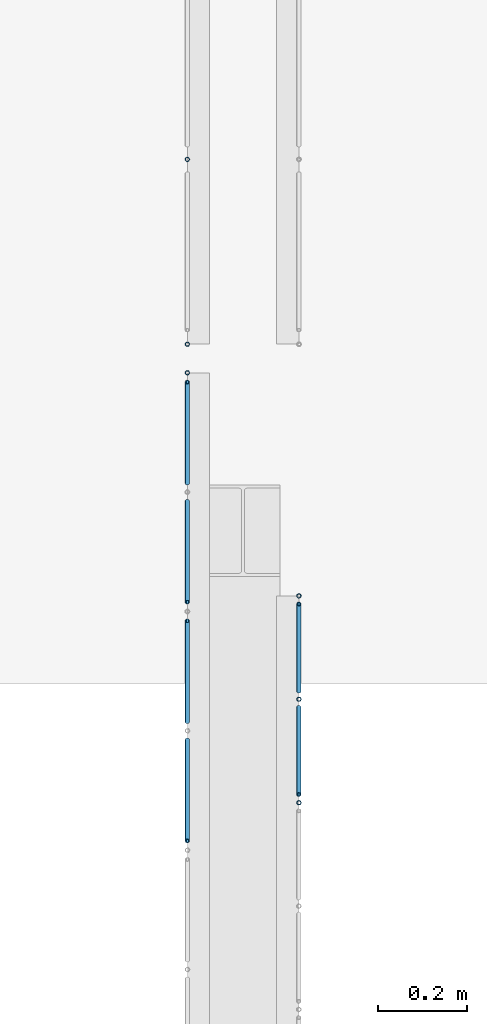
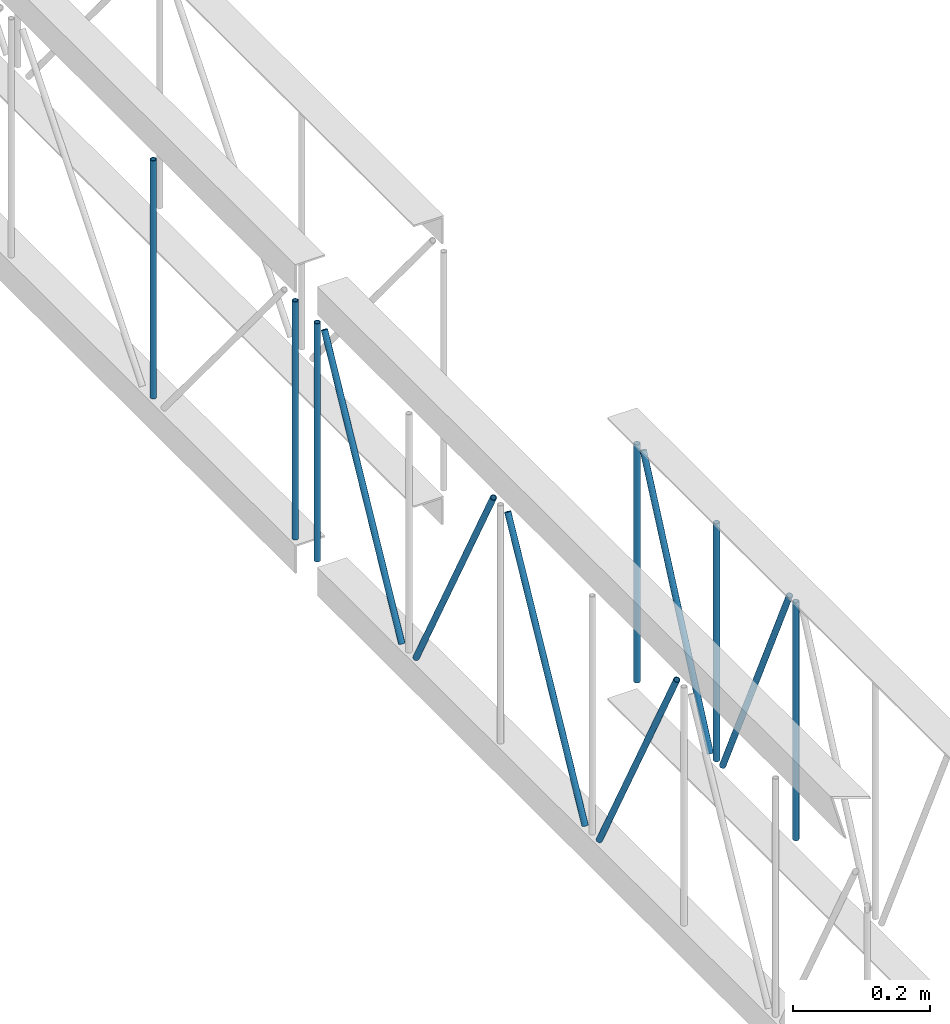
# One storey, part 87 of 153: 12 members, 3 elements without a shape of their own.
"""IFC4 building model written with IfcOpenShell, lengths in metres."""

from ifc_helpers import new_model, entity, si_unit, converted_unit, derived_unit, direction, frame, origin, place, context, subcontext, project, spatial, arc, indexed_curve, outline, extrude, source, transform, mapped, material, type_object, type_shapes, element, aggregate, save


model = new_model("IFC4")

# Units and contexts
model_context = context("Model", 3, precision=1e-05, world=origin(), true_north=direction((6.123031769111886e-17, 1.0)))
body_context = subcontext(model_context, "Body", "Model", "MODEL_VIEW")
ifc_project = project(units=[si_unit("LENGTHUNIT", "METRE"), si_unit("AREAUNIT", "SQUARE_METRE"), si_unit("VOLUMEUNIT", "CUBIC_METRE"), converted_unit("PLANEANGLEUNIT", "DEGREE", entity("IfcRatioMeasure", 0.017453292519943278), si_unit("PLANEANGLEUNIT", "RADIAN"), dimensions=[0, 0, 0, 0, 0, 0, 0]), si_unit("MASSUNIT", "GRAM", prefix="KILO"), derived_unit("MASSDENSITYUNIT", [(si_unit("MASSUNIT", "GRAM", prefix="KILO"), 1), (si_unit("LENGTHUNIT", "METRE"), -3)]), derived_unit("MOMENTOFINERTIAUNIT", [(si_unit("LENGTHUNIT", "METRE"), 4)]), si_unit("TIMEUNIT", "SECOND"), si_unit("FREQUENCYUNIT", "HERTZ"), si_unit("THERMODYNAMICTEMPERATUREUNIT", "DEGREE_CELSIUS"), derived_unit("THERMALTRANSMITTANCEUNIT", [(si_unit("MASSUNIT", "GRAM", prefix="KILO"), 1), (si_unit("THERMODYNAMICTEMPERATUREUNIT", "KELVIN"), -1), (si_unit("TIMEUNIT", "SECOND"), -3)]), derived_unit("VOLUMETRICFLOWRATEUNIT", [(si_unit("LENGTHUNIT", "METRE"), 3), (si_unit("TIMEUNIT", "SECOND"), -1)]), derived_unit("MASSFLOWRATEUNIT", [(si_unit("MASSUNIT", "GRAM", prefix="KILO"), 1), (si_unit("TIMEUNIT", "SECOND"), -1)]), derived_unit("ROTATIONALFREQUENCYUNIT", [(si_unit("TIMEUNIT", "SECOND"), -1)]), si_unit("ELECTRICCURRENTUNIT", "AMPERE"), si_unit("ELECTRICVOLTAGEUNIT", "VOLT"), si_unit("POWERUNIT", "WATT"), si_unit("FORCEUNIT", "NEWTON", prefix="KILO"), si_unit("ILLUMINANCEUNIT", "LUX"), si_unit("LUMINOUSFLUXUNIT", "LUMEN"), si_unit("LUMINOUSINTENSITYUNIT", "CANDELA"), derived_unit("USERDEFINED", [(si_unit("MASSUNIT", "GRAM", prefix="KILO"), -1), (si_unit("LENGTHUNIT", "METRE"), -2), (si_unit("TIMEUNIT", "SECOND"), 3), (si_unit("LUMINOUSFLUXUNIT", "LUMEN"), 1)]), derived_unit("SOUNDPOWERUNIT", [(si_unit("MASSUNIT", "GRAM", prefix="KILO"), 1), (si_unit("LENGTHUNIT", "METRE"), 2), (si_unit("TIMEUNIT", "SECOND"), -3)]), derived_unit("SOUNDPRESSUREUNIT", [(si_unit("MASSUNIT", "GRAM", prefix="KILO"), 1), (si_unit("LENGTHUNIT", "METRE"), -1), (si_unit("TIMEUNIT", "SECOND"), -2)]), derived_unit("LINEARVELOCITYUNIT", [(si_unit("LENGTHUNIT", "METRE"), 1), (si_unit("TIMEUNIT", "SECOND"), -1)]), si_unit("PRESSUREUNIT", "PASCAL"), derived_unit("USERDEFINED", [(si_unit("LENGTHUNIT", "METRE"), -2), (si_unit("MASSUNIT", "GRAM", prefix="KILO"), 1), (si_unit("TIMEUNIT", "SECOND"), -2)]), derived_unit("LINEARFORCEUNIT", [(si_unit("MASSUNIT", "GRAM", prefix="KILO"), 1), (si_unit("LENGTHUNIT", "METRE"), 1), (si_unit("TIMEUNIT", "SECOND"), -2), (si_unit("LENGTHUNIT", "METRE"), -1)]), derived_unit("PLANARFORCEUNIT", [(si_unit("MASSUNIT", "GRAM", prefix="KILO"), 1), (si_unit("LENGTHUNIT", "METRE"), 1), (si_unit("TIMEUNIT", "SECOND"), -2), (si_unit("LENGTHUNIT", "METRE"), -2)])], contexts=[model_context])

# Site, building, storey
site_placement = place(None, origin())
site = spatial("IfcSite", under=ifc_project, at=site_placement, Name="Superficie", CompositionType="ELEMENT")
building_placement = place(site_placement, origin())
building = spatial("IfcBuilding", under=site, at=building_placement, CompositionType="ELEMENT")
storey_placement = place(building_placement, frame((0.0, 0.0, 3.5999999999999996)))
storey = spatial("IfcBuildingStorey", under=building, at=storey_placement, Name="Nivel 1", CompositionType="ELEMENT", Elevation=3.5999999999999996)

# Assembly, members
assembly_1_placement = place(storey_placement, origin())
assembly_1 = element("IfcElementAssembly", 1, at=assembly_1_placement, inside=storey, Name="Viga de celosia 13:Viga de celosia 13", ObjectType="Viga de celosia 13:Viga de celosia 13", AssemblyPlace="NOTDEFINED", PredefinedType="TRUSS")
ifc_material = material(Name="Metal - Calibre delgado", Category="Metal")
member_type_1 = type_object("IfcMemberType", Name="HSS-Tubo estructural redondo:HSS 0.01", PredefinedType="BRACE", material=ifc_material)
shared_shape_1 = source(origin(), body_context, "Body", "SweptSolid", [
    extrude(outline(indexed_curve([(-0.005000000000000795, 7.502054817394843e-18), (-9.800269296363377e-18, -0.005000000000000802), (0.005000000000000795, -7.502054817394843e-18), (8.07772287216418e-18, 0.005000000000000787)], segments=[arc(1, 2, 3), arc(3, 4, 1)], self_intersect=False), holes=[indexed_curve([(0.003999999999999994, 7.222511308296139e-17), (6.910645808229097e-17, -0.004000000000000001), (-0.003999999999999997, -1.8650054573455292e-17), (-2.9156497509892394e-17, 0.003999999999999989)], segments=[arc(1, 2, 3), arc(3, 4, 1)], self_intersect=False)]), frame((-0.21200000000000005, 0.0, 0.0), z_axis=(1.0, 0.0, 0.0), x_axis=(0.0, 1.0, 0.0)), (0.0, 0.0, 1.0), 0.4240000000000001),
])
type_shapes(member_type_1, [shared_shape_1])
member_1_placement = place(assembly_1_placement, frame((15.836799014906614, -9.134451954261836, 0.25), z_axis=(0.0, 1.0, 0.0), x_axis=(0.0, 0.0, 1.0)))
member_1 = element("IfcMember", 2, at=member_1_placement, type_object=member_type_1, material=ifc_material, Name="HSS-Tubo estructural redondo:HSS 0.01", ObjectType="HSS-Tubo estructural redondo:HSS 0.01", PredefinedType="BRACE", context=body_context, shape_type="MappedRepresentation", body=[
    mapped(shared_shape_1, transform((0.0, 0.0, 0.0), scale=1.0)),
])
member_2_placement = place(assembly_1_placement, frame((15.836799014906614, -8.720105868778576, 0.25), z_axis=(0.0, 1.0, 0.0), x_axis=(0.0, 0.0, 1.0)))
member_2 = element("IfcMember", 3, at=member_2_placement, type_object=member_type_1, material=ifc_material, Name="HSS-Tubo estructural redondo:HSS 0.01", ObjectType="HSS-Tubo estructural redondo:HSS 0.01", PredefinedType="BRACE", context=body_context, shape_type="MappedRepresentation", body=[
    mapped(shared_shape_1, transform((0.0, 0.0, 0.0), scale=1.0)),
])
aggregate(assembly_1, [member_1, member_2])

# Assembly, member
assembly_2_placement = place(storey_placement, origin())
assembly_2 = element("IfcElementAssembly", 4, at=assembly_2_placement, inside=storey, Name="Viga de celosia 13:Viga de celosia 13", ObjectType="Viga de celosia 13:Viga de celosia 13", AssemblyPlace="NOTDEFINED", PredefinedType="TRUSS")
member_3_placement = place(assembly_2_placement, frame((15.836799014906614, -9.198502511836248, 0.25), z_axis=(0.0, 1.0, 0.0), x_axis=(0.0, 0.0, 1.0)))
member_3 = element("IfcMember", 5, at=member_3_placement, type_object=member_type_1, material=ifc_material, Name="HSS-Tubo estructural redondo:HSS 0.01", ObjectType="HSS-Tubo estructural redondo:HSS 0.01", PredefinedType="BRACE", context=body_context, shape_type="MappedRepresentation", body=[
    mapped(shared_shape_1, transform((0.0, 0.0, 0.0), scale=1.0)),
])

# Assembly, members
assembly_3_placement = place(storey_placement, origin())
assembly_3 = element("IfcElementAssembly", 6, at=assembly_3_placement, inside=storey, Name="Viga de celosia 13:Viga de celosia 13", ObjectType="Viga de celosia 13:Viga de celosia 13", AssemblyPlace="NOTDEFINED", PredefinedType="TRUSS")
member_type_2 = type_object("IfcMemberType", Name="HSS-Tubo estructural redondo:HSS 0.01", PredefinedType="BRACE", material=ifc_material)
shared_shape_2 = source(origin(), body_context, "Body", "SweptSolid", [
    extrude(outline(indexed_curve([(-0.005000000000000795, 2.0824731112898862e-17), (-2.3122945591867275e-17, -0.005000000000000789), (0.005000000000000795, -2.08247311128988e-17), (2.14003991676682e-17, 0.005000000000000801)], segments=[arc(1, 2, 3), arc(3, 4, 1)], self_intersect=False), holes=[indexed_curve([(0.003999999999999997, -1.3094283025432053e-17), (-1.531427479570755e-18, -0.003999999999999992), (-0.004, 4.0098531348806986e-17), (4.1481388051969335e-17, 0.0039999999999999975)], segments=[arc(1, 2, 3), arc(3, 4, 1)], self_intersect=False)]), frame((-0.21200000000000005, 0.0, 0.0), z_axis=(1.0, 0.0, 0.0), x_axis=(0.0, -1.0, 0.0)), (0.0, 0.0, 1.0), 0.4240000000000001),
])
type_shapes(member_type_2, [shared_shape_2])
member_4_placement = place(assembly_3_placement, frame((16.086799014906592, -10.162073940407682, 0.25), z_axis=(0.0, 1.0, 0.0), x_axis=(0.0, 0.0, 1.0)))
member_4 = element("IfcMember", 7, at=member_4_placement, type_object=member_type_2, material=ifc_material, Name="HSS-Tubo estructural redondo:HSS 0.01", ObjectType="HSS-Tubo estructural redondo:HSS 0.01", PredefinedType="BRACE", context=body_context, shape_type="MappedRepresentation", body=[
    mapped(shared_shape_2, transform((0.0, 0.0, 0.0), scale=1.0)),
])
member_5_placement = place(assembly_3_placement, frame((16.086799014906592, -9.930288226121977, 0.25), z_axis=(0.0, 1.0, 0.0), x_axis=(0.0, 0.0, 1.0)))
member_5 = element("IfcMember", 8, at=member_5_placement, type_object=member_type_2, material=ifc_material, Name="HSS-Tubo estructural redondo:HSS 0.01", ObjectType="HSS-Tubo estructural redondo:HSS 0.01", PredefinedType="BRACE", context=body_context, shape_type="MappedRepresentation", body=[
    mapped(shared_shape_2, transform((0.0, 0.0, 0.0), scale=1.0)),
])
member_6_placement = place(assembly_3_placement, frame((16.086799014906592, -9.698502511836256, 0.25), z_axis=(0.0, 1.0, 0.0), x_axis=(0.0, 0.0, 1.0)))
member_6 = element("IfcMember", 9, at=member_6_placement, type_object=member_type_2, material=ifc_material, Name="HSS-Tubo estructural redondo:HSS 0.01", ObjectType="HSS-Tubo estructural redondo:HSS 0.01", PredefinedType="BRACE", context=body_context, shape_type="MappedRepresentation", body=[
    mapped(shared_shape_2, transform((0.0, 0.0, 0.0), scale=1.0)),
])

# Member
member_type_3 = type_object("IfcMemberType", Name="HSS-Tubo estructural redondo:HSS 0.01", PredefinedType="BRACE", material=ifc_material)
shared_shape_3 = source(origin(), body_context, "Body", "SweptSolid", [
    extrude(outline(indexed_curve([(-0.005000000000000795, 7.502054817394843e-18), (-9.800269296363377e-18, -0.005000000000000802), (0.005000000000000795, -7.502054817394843e-18), (8.07772287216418e-18, 0.005000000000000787)], segments=[arc(1, 2, 3), arc(3, 4, 1)], self_intersect=False), holes=[indexed_curve([(0.003999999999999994, 7.222511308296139e-17), (6.910645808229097e-17, -0.004000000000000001), (-0.003999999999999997, -1.8650054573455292e-17), (-2.9156497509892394e-17, 0.003999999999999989)], segments=[arc(1, 2, 3), arc(3, 4, 1)], self_intersect=False)]), frame((-0.23950000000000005, 0.0, 0.0), z_axis=(1.0, 0.0, 0.0), x_axis=(0.0, 1.0, 0.0)), (0.0, 0.0, 1.0), 0.4790000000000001),
])
type_shapes(member_type_3, [shared_shape_3])
member_7_placement = place(assembly_2_placement, frame((15.836799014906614, -10.13475251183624, 0.25), z_axis=(0.0, -0.8817419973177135, -0.4717319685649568), x_axis=(0.0, 0.4717319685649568, -0.8817419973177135)))
member_7 = element("IfcMember", 10, at=member_7_placement, type_object=member_type_3, material=ifc_material, Name="HSS-Tubo estructural redondo:HSS 0.01", ObjectType="HSS-Tubo estructural redondo:HSS 0.01", PredefinedType="BRACE", context=body_context, shape_type="MappedRepresentation", body=[
    mapped(shared_shape_3, transform((0.0, 0.0, 0.0), scale=1.0)),
])

member_8_placement = place(assembly_2_placement, frame((15.836799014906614, -9.867252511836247, 0.25000000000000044), z_axis=(0.0, 0.881741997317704, -0.47173196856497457), x_axis=(0.0, 0.47173196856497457, 0.881741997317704)))
member_8 = element("IfcMember", 11, at=member_8_placement, type_object=member_type_3, material=ifc_material, Name="HSS-Tubo estructural redondo:HSS 0.01", ObjectType="HSS-Tubo estructural redondo:HSS 0.01", PredefinedType="BRACE", context=body_context, shape_type="MappedRepresentation", body=[
    mapped(shared_shape_3, transform((0.0, 0.0, 0.0), scale=1.0)),
])

member_9_placement = place(assembly_2_placement, frame((15.836799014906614, -9.59975251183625, 0.25000000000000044), z_axis=(0.0, -0.881741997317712, -0.47173196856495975), x_axis=(0.0, 0.47173196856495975, -0.881741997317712)))
member_9 = element("IfcMember", 12, at=member_9_placement, type_object=member_type_3, material=ifc_material, Name="HSS-Tubo estructural redondo:HSS 0.01", ObjectType="HSS-Tubo estructural redondo:HSS 0.01", PredefinedType="BRACE", context=body_context, shape_type="MappedRepresentation", body=[
    mapped(shared_shape_3, transform((0.0, 0.0, 0.0), scale=1.0)),
])

member_10_placement = place(assembly_2_placement, frame((15.836799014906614, -9.332252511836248, 0.25), z_axis=(0.0, 0.8817419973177, -0.471731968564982), x_axis=(0.0, 0.471731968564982, 0.8817419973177)))
member_10 = element("IfcMember", 13, at=member_10_placement, type_object=member_type_3, material=ifc_material, Name="HSS-Tubo estructural redondo:HSS 0.01", ObjectType="HSS-Tubo estructural redondo:HSS 0.01", PredefinedType="BRACE", context=body_context, shape_type="MappedRepresentation", body=[
    mapped(shared_shape_3, transform((0.0, 0.0, 0.0), scale=1.0)),
])

aggregate(assembly_2, [member_3, member_7, member_8, member_9, member_10])

member_type_4 = type_object("IfcMemberType", Name="HSS-Tubo estructural redondo:HSS 0.01", PredefinedType="BRACE", material=ifc_material)
shared_shape_4 = source(origin(), body_context, "Body", "SweptSolid", [
    extrude(outline(indexed_curve([(-0.005000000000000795, 2.0824731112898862e-17), (-2.3122945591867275e-17, -0.005000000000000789), (0.005000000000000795, -2.08247311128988e-17), (2.14003991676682e-17, 0.005000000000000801)], segments=[arc(1, 2, 3), arc(3, 4, 1)], self_intersect=False), holes=[indexed_curve([(0.003999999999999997, -1.3094283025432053e-17), (-1.531427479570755e-18, -0.003999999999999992), (-0.004, 4.0098531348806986e-17), (4.1481388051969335e-17, 0.0039999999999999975)], segments=[arc(1, 2, 3), arc(3, 4, 1)], self_intersect=False)]), frame((-0.2325, 0.0, 0.0), z_axis=(1.0, 0.0, 0.0), x_axis=(0.0, -1.0, 0.0)), (0.0, 0.0, 1.0), 0.465),
])
type_shapes(member_type_4, [shared_shape_4])
member_11_placement = place(assembly_3_placement, frame((16.086799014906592, -10.04618108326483, 0.25), z_axis=(0.0, -0.9072563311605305, -0.42057811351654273), x_axis=(0.0, 0.42057811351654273, -0.9072563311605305)))
member_11 = element("IfcMember", 14, at=member_11_placement, type_object=member_type_4, material=ifc_material, Name="HSS-Tubo estructural redondo:HSS 0.01", ObjectType="HSS-Tubo estructural redondo:HSS 0.01", PredefinedType="BRACE", context=body_context, shape_type="MappedRepresentation", body=[
    mapped(shared_shape_4, transform((0.0, 0.0, 0.0), scale=1.0)),
])

member_12_placement = place(assembly_3_placement, frame((16.086799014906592, -9.814395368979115, 0.25), z_axis=(0.0, 0.9072563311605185, -0.4205781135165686), x_axis=(0.0, 0.4205781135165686, 0.9072563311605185)))
member_12 = element("IfcMember", 15, at=member_12_placement, type_object=member_type_4, material=ifc_material, Name="HSS-Tubo estructural redondo:HSS 0.01", ObjectType="HSS-Tubo estructural redondo:HSS 0.01", PredefinedType="BRACE", context=body_context, shape_type="MappedRepresentation", body=[
    mapped(shared_shape_4, transform((0.0, 0.0, 0.0), scale=1.0)),
])

aggregate(assembly_3, [member_4, member_5, member_6, member_11, member_12])

save(model, "model.ifc")
